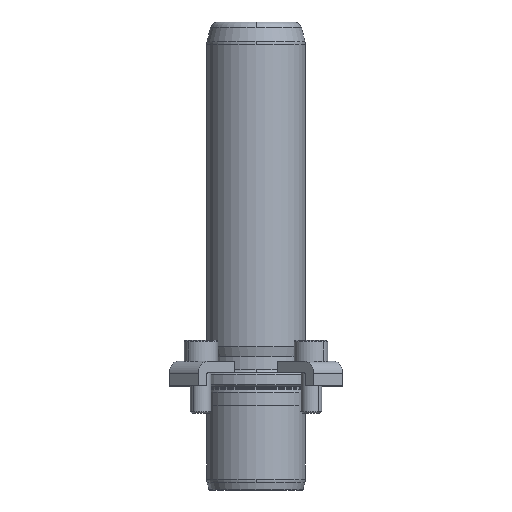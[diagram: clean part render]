
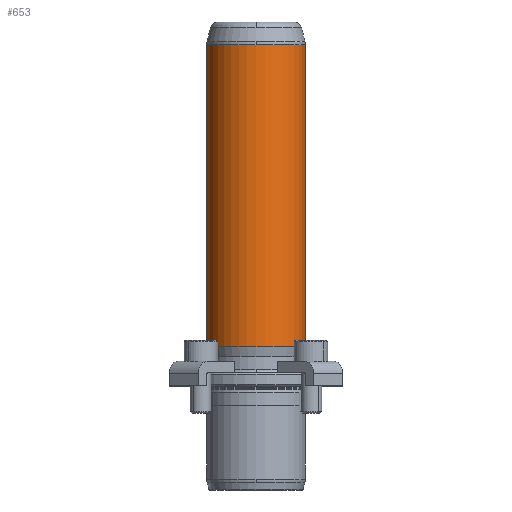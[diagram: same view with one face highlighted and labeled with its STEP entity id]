
A CAD part, front view. The second image highlights one B-rep face of the part: STEP entity #653.
In plain terms, the highlighted cylindrical face has radius 19 mm (diameter 38 mm), a partial arc.
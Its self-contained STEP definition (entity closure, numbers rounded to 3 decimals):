
#566=CARTESIAN_POINT('',(0.0,-19.,131.342));
#567=VERTEX_POINT('',#566);
#594=CARTESIAN_POINT('',(-19.0,0.,131.342));
#595=VERTEX_POINT('',#594);
#603=CARTESIAN_POINT('',(0.0,0.,131.342));
#604=DIRECTION('',(0.0,0.0,1.0));
#605=DIRECTION('',(1.0,0.0,0.0));
#606=AXIS2_PLACEMENT_3D('',#603,#604,#605);
#607=CIRCLE('',#606,19.0);
#608=EDGE_CURVE('',#595,#567,#607,.T.);
#613=CARTESIAN_POINT('',(0.0,0.,73.171));
#614=DIRECTION('',(0.0,0.,1.0));
#615=DIRECTION('',(1.0,0.0,0.0));
#616=AXIS2_PLACEMENT_3D('',#613,#614,#615);
#617=CYLINDRICAL_SURFACE('',#616,19.0);
#618=CARTESIAN_POINT('',(19.0,0.,131.342));
#619=VERTEX_POINT('',#618);
#620=CARTESIAN_POINT('',(19.0,0.,15.0));
#621=VERTEX_POINT('',#620);
#622=CARTESIAN_POINT('',(19.0,0.,131.342));
#623=DIRECTION('',(0.0,0.0,-1.0));
#624=VECTOR('',#623,116.342);
#625=LINE('',#622,#624);
#626=EDGE_CURVE('',#619,#621,#625,.T.);
#627=ORIENTED_EDGE('',*,*,#626,.F.);
#628=CARTESIAN_POINT('',(0.0,0.,131.342));
#629=DIRECTION('',(0.0,0.0,1.0));
#630=DIRECTION('',(1.0,0.0,0.0));
#631=AXIS2_PLACEMENT_3D('',#628,#629,#630);
#632=CIRCLE('',#631,19.0);
#633=EDGE_CURVE('',#567,#619,#632,.T.);
#634=ORIENTED_EDGE('',*,*,#633,.F.);
#635=ORIENTED_EDGE('',*,*,#608,.F.);
#636=CARTESIAN_POINT('',(-19.0,0.,15.0));
#637=VERTEX_POINT('',#636);
#638=CARTESIAN_POINT('',(-19.0,0.,131.342));
#639=DIRECTION('',(0.0,0.0,-1.0));
#640=VECTOR('',#639,116.342);
#641=LINE('',#638,#640);
#642=EDGE_CURVE('',#595,#637,#641,.T.);
#643=ORIENTED_EDGE('',*,*,#642,.T.);
#644=CARTESIAN_POINT('',(0.0,0.,15.0));
#645=DIRECTION('',(0.0,0.0,1.0));
#646=DIRECTION('',(1.0,0.0,0.0));
#647=AXIS2_PLACEMENT_3D('',#644,#645,#646);
#648=CIRCLE('',#647,19.0);
#649=EDGE_CURVE('',#637,#621,#648,.T.);
#650=ORIENTED_EDGE('',*,*,#649,.T.);
#651=EDGE_LOOP('',(#627,#634,#635,#643,#650));
#652=FACE_OUTER_BOUND('',#651,.T.);
#653=ADVANCED_FACE('',(#652),#617,.T.);
